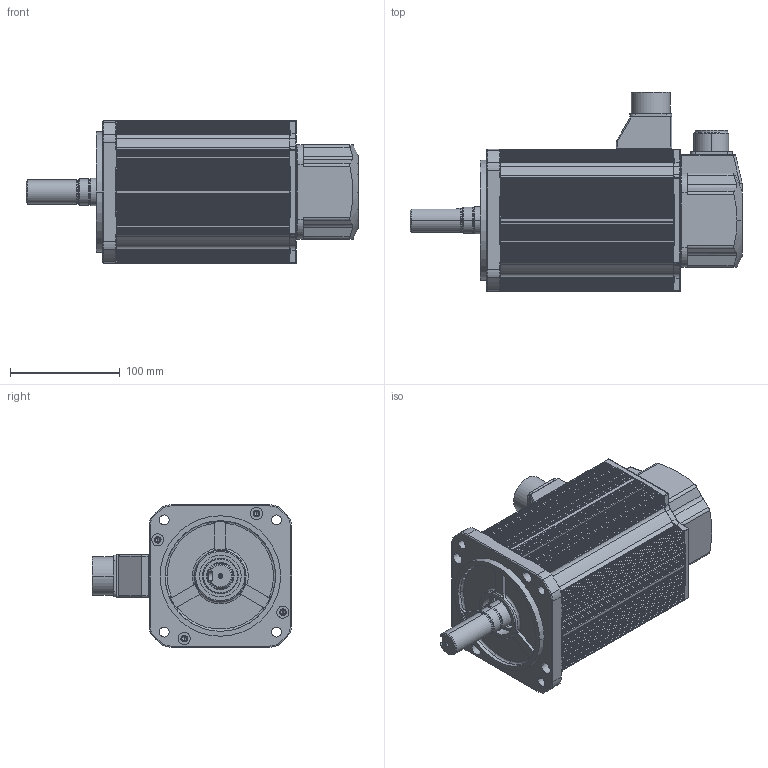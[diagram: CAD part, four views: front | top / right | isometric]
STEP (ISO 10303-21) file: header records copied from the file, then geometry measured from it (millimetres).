
FILE_DESCRIPTION (( 'STEP AP203' ), '1' );
FILE_NAME ('KANH-15B(BR).STEP', '2026-09-12T02:55:12', ( '' ), ( '' ), 'SwSTEP 2.0', 'SolidWorks 2023', '' );
FILE_SCHEMA (( 'CONFIG_CONTROL_DESIGN' ));
Length unit declared in the file: millimetre
Products named in the file (11): Ø22-KEY8X41; □130 BRACKET_BR; 10050511 RUBBER SEAL_MS20; MS3102A 20-29P; MS3102A 20_표준; □130 FLANGE; 1005052200 ENCODER COVER; 10050523 GASKET_돌출형; □130-161.0mm(1.5kW,BR,MS20); KANH-15B(BR); 10050579 CONNECTOR BOX_MS20
Assembly tree (10 placements, depth 2):
  KANH-15B(BR)
    Ø22-KEY8X41
    □130 FLANGE
    □130-161.0mm(1.5kW,BR,MS20)
    □130 BRACKET_BR
    10050511 RUBBER SEAL_MS20
    10050579 CONNECTOR BOX_MS20
    MS3102A 20_표준
    MS3102A 20-29P
    1005052200 ENCODER COVER
    10050523 GASKET_돌출형
Bounding box: 303.2 x 181.75 x 130 mm (x, y, z)
Volume: 730971.9 mm3; surface area: 397052.1 mm2
Topology: 10 solids, 10 shells, 2491 faces, 6891 edges, 4455 vertices
Faces by surface type: plane 1171, cylinder 986, torus 185, bspline 83, cone 56, sphere 10
Entity records: 84366 total; most frequent: CARTESIAN_POINT 18672, DIRECTION 13678, ORIENTED_EDGE 13654, EDGE_CURVE 6827, AXIS2_PLACEMENT_3D 4817, VERTEX_POINT 4455, LINE 4044, VECTOR 4044
